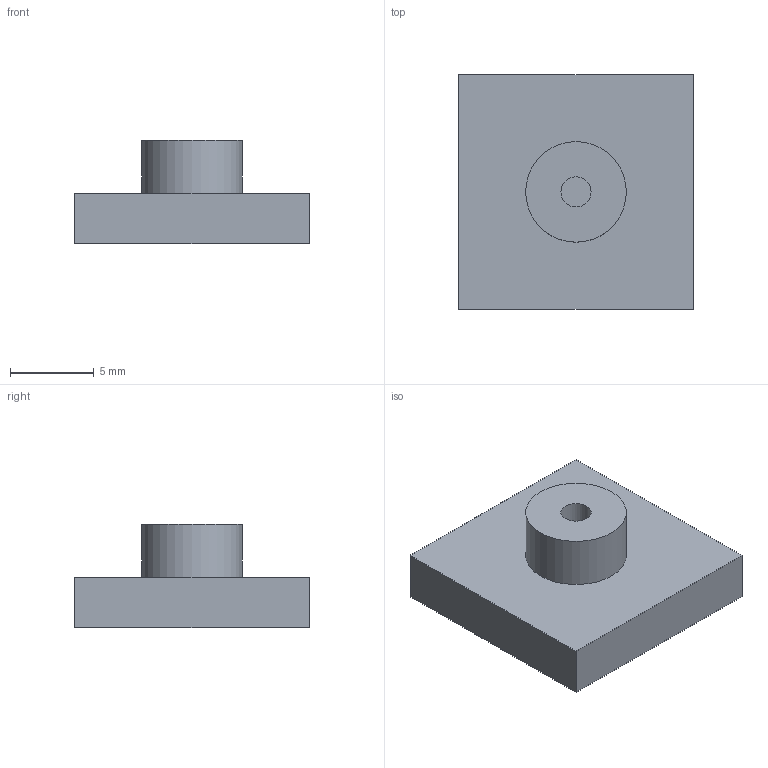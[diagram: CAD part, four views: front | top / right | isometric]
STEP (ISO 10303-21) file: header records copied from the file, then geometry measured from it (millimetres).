
FILE_DESCRIPTION(('Open CASCADE Model'),'2;1');
FILE_NAME('Open CASCADE Shape Model','2026-09-15T13:32:55',('Author'),( 'Open CASCADE'),'Open CASCADE STEP processor 7.7','Open CASCADE 7.7' ,'Unknown');
FILE_SCHEMA(('AUTOMOTIVE_DESIGN { 1 0 10303 214 1 1 1 1 }'));
Length unit declared in the file: millimetre
Products named in the file (1): QP02_M2_PILOT_D1.8
Bounding box: 14 x 14 x 6.15 mm (x, y, z)
Volume: 667.4 mm3; surface area: 640.9 mm2
Topology: 1 solids, 1 shells, 10 faces, 18 edges, 12 vertices
Faces by surface type: plane 8, cylinder 2
Full cylindrical faces by diameter (mm): 1.8 x1, 6 x1
Entity records: 490 total; most frequent: DIRECTION 80, CARTESIAN_POINT 77, LINE 46, VECTOR 46, ORIENTED_EDGE 36, PCURVE 36, DEFINITIONAL_REPRESENTATION 36, EDGE_CURVE 18
